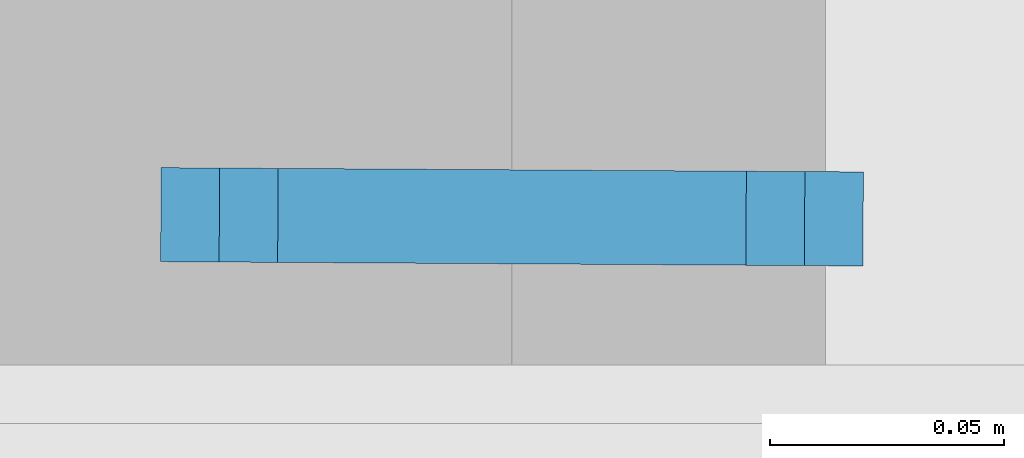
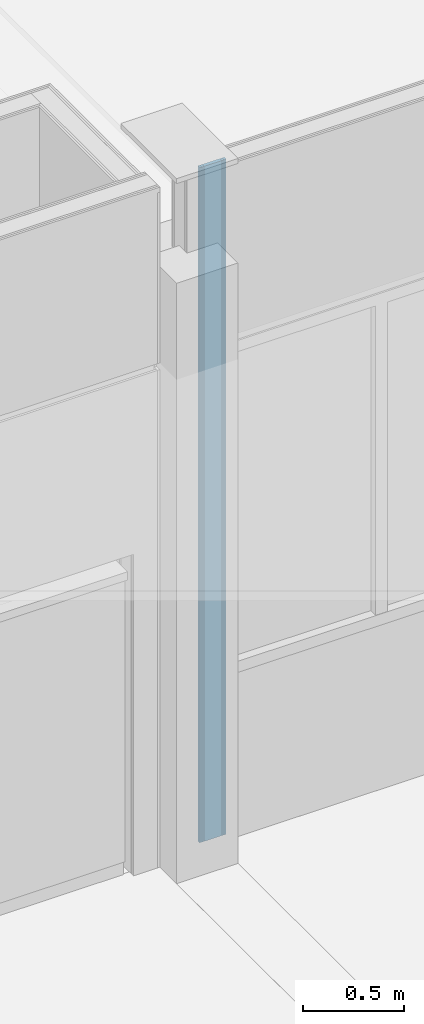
# One storey, part 59 of 109: 5 building element parts, 1 element without a shape of its own.
"""IFC2X3 building model written with IfcOpenShell, lengths in millimetres."""

from ifc_helpers import new_model, entity, si_unit, converted_unit, derived_unit, money_unit, direction, frame, origin_with_axes, place, context, subcontext, project, spatial, faceted_brep, material, type_object, element, aggregate, save


model = new_model("IFC2X3")

# Units and contexts
model_context = context("Model", 3, precision=0.01, world=origin_with_axes(), true_north=direction((0.0, 1.0)))
body_context = subcontext(model_context, "Body", "Model", "MODEL_VIEW")
ifc_project = project(units=[si_unit("LENGTHUNIT", "METRE", prefix="MILLI"), si_unit("AREAUNIT", "SQUARE_METRE"), si_unit("VOLUMEUNIT", "CUBIC_METRE"), converted_unit("PLANEANGLEUNIT", "DEGREE", entity("IfcPlaneAngleMeasure", 0.0174532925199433), si_unit("PLANEANGLEUNIT", "RADIAN"), dimensions=[0, 0, 0, 0, 0, 0, 0]), money_unit("EUR"), converted_unit("TIMEUNIT", "Year", entity("IfcTimeMeasure", 31557600.0), si_unit("TIMEUNIT", "SECOND"), dimensions=[0, 0, 1, 0, 0, 0, 0]), si_unit("MASSUNIT", "GRAM", prefix="KILO"), si_unit("THERMODYNAMICTEMPERATUREUNIT", "DEGREE_CELSIUS"), si_unit("LUMINOUSINTENSITYUNIT", "LUMEN"), si_unit("ENERGYUNIT", "JOULE", prefix="MEGA"), derived_unit("THERMALCONDUCTANCEUNIT", [(si_unit("POWERUNIT", "WATT"), 1), (si_unit("LENGTHUNIT", "METRE"), -1), (si_unit("THERMODYNAMICTEMPERATUREUNIT", "KELVIN"), -1)]), derived_unit("SPECIFICHEATCAPACITYUNIT", [(si_unit("ENERGYUNIT", "JOULE"), 1), (si_unit("MASSUNIT", "GRAM", prefix="KILO"), -1), (si_unit("THERMODYNAMICTEMPERATUREUNIT", "KELVIN"), -1)]), derived_unit("MASSDENSITYUNIT", [(si_unit("MASSUNIT", "GRAM", prefix="KILO"), 1), (si_unit("VOLUMEUNIT", "CUBIC_METRE"), -1)])], contexts=[model_context])

# Site, building, storey
site_placement = place(None, origin_with_axes())
site = spatial("IfcSite", under=ifc_project, at=site_placement, Name="<site naam>", CompositionType="ELEMENT")
building_placement = place(site_placement, origin_with_axes())
building = spatial("IfcBuilding", under=site, at=building_placement, Name="<Naam gebouw>", CompositionType="ELEMENT")
storey_placement = place(building_placement, origin_with_axes())
storey = spatial("IfcBuildingStorey", under=building, at=storey_placement, Name="00 Begane grond", CompositionType="ELEMENT", Elevation=0.0)

# Wall, building element parts
wall_type = type_object("IfcWallType", Name="MS-01 GF 150 ECO DGS/2.100.2.A 150", PredefinedType="NOTDEFINED")
wall_placement = place(storey_placement, frame((32175.00000000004, 11971.61681566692, 0.0), z_axis=(0.0, 0.0, 1.0), x_axis=(0.006059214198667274, 0.9999816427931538, 0.0)))
wall = element("IfcWall", 1, at=wall_placement, inside=storey, type_object=wall_type, Name="22_Binnenwand_MS-01")
ifc_material_1 = material(Name="gipsplaat")
building_element_part_1_placement = place(wall_placement, origin_with_axes())
building_element_part_1 = element("IfcBuildingElementPart", 2, at=building_element_part_1_placement, material=ifc_material_1, Name="gipsplaat", context=body_context, shape_type="Brep", body=[
    faceted_brep([(0.0, 50.00000000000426, 3.000000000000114), (20.0912283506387, 50.00000000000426, 3.000000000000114), (20.0912283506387, 50.00000000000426, 4070.0), (0.0, 50.00000000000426, 4070.0), (20.09122835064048, 62.50000000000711, 3.000000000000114), (0.0, 62.5, 3.000000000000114), (20.09122835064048, 62.50000000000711, 4070.0), (0.0, 62.5, 4070.0)], [[[0, 1, 2, 3]], [[4, 1, 0, 5]], [[1, 4, 6, 2]], [[3, 2, 6, 7]], [[5, 0, 3, 7]], [[4, 5, 7, 6]]]),
])
building_element_part_2_placement = place(wall_placement, origin_with_axes())
building_element_part_2 = element("IfcBuildingElementPart", 3, at=building_element_part_2_placement, material=ifc_material_1, Name="gipsplaat", context=body_context, shape_type="Brep", body=[
    faceted_brep([(0.0, 62.5, 3.000000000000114), (20.09122835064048, 62.50000000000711, 3.000000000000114), (20.09122835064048, 62.50000000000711, 4070.0), (0.0, 62.5, 4070.0), (20.09122835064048, 75.00000000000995, 3.000000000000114), (0.0, 75.00000000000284, 3.000000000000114), (20.09122835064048, 75.00000000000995, 4070.0), (0.0, 75.00000000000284, 4070.0)], [[[0, 1, 2, 3]], [[4, 1, 0, 5]], [[1, 4, 6, 2]], [[3, 2, 6, 7]], [[5, 0, 3, 7]], [[4, 5, 7, 6]]]),
])
building_element_part_3_placement = place(wall_placement, origin_with_axes())
building_element_part_3 = element("IfcBuildingElementPart", 4, at=building_element_part_3_placement, material=ifc_material_1, Name="gipsplaat", context=body_context, shape_type="Brep", body=[
    faceted_brep([(0.0, -62.5, 3.000000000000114), (20.09122835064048, -62.49999999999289, 3.000000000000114), (20.09122835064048, -62.49999999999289, 4070.0), (0.0, -62.5, 4070.0), (20.09122835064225, -49.99999999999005, 3.000000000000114), (0.0, -49.99999999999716, 3.000000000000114), (20.09122835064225, -49.99999999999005, 4070.0), (0.0, -49.99999999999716, 4070.0)], [[[0, 1, 2, 3]], [[4, 1, 0, 5]], [[1, 4, 6, 2]], [[3, 2, 6, 7]], [[5, 0, 3, 7]], [[4, 5, 7, 6]]]),
])
building_element_part_4_placement = place(wall_placement, origin_with_axes())
building_element_part_4 = element("IfcBuildingElementPart", 5, at=building_element_part_4_placement, material=ifc_material_1, Name="gipsplaat", context=body_context, shape_type="Brep", body=[
    faceted_brep([(0.0, -74.99999999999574, 3.000000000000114), (20.09122835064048, -74.99999999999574, 3.000000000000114), (20.09122835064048, -74.99999999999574, 4070.0), (0.0, -74.99999999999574, 4070.0), (20.09122835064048, -62.49999999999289, 3.000000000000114), (0.0, -62.5, 3.000000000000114), (20.09122835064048, -62.49999999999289, 4070.0), (0.0, -62.5, 4070.0)], [[[0, 1, 2, 3]], [[4, 1, 0, 5]], [[1, 4, 6, 2]], [[3, 2, 6, 7]], [[5, 0, 3, 7]], [[4, 5, 7, 6]]]),
])
ifc_material_2 = material(Name="isolatie_steenwol LSW")
building_element_part_5_placement = place(wall_placement, origin_with_axes())
building_element_part_5 = element("IfcBuildingElementPart", 6, at=building_element_part_5_placement, material=ifc_material_2, Name="isolatie_steenwol LSW", context=body_context, shape_type="Brep", body=[
    faceted_brep([(0.0, -49.99999999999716, 3.000000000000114), (20.09122835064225, -49.99999999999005, 3.000000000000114), (20.09122835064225, -49.99999999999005, 4070.0), (0.0, -49.99999999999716, 4070.0), (20.0912283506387, 50.00000000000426, 3.000000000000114), (0.0, 50.00000000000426, 3.000000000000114), (20.0912283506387, 50.00000000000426, 4070.0), (0.0, 50.00000000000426, 4070.0)], [[[0, 1, 2, 3]], [[4, 1, 0, 5]], [[1, 4, 6, 2]], [[3, 2, 6, 7]], [[5, 0, 3, 7]], [[4, 5, 7, 6]]]),
])
aggregate(wall, [building_element_part_1, building_element_part_2, building_element_part_3, building_element_part_4, building_element_part_5])

save(model, "model.ifc")
